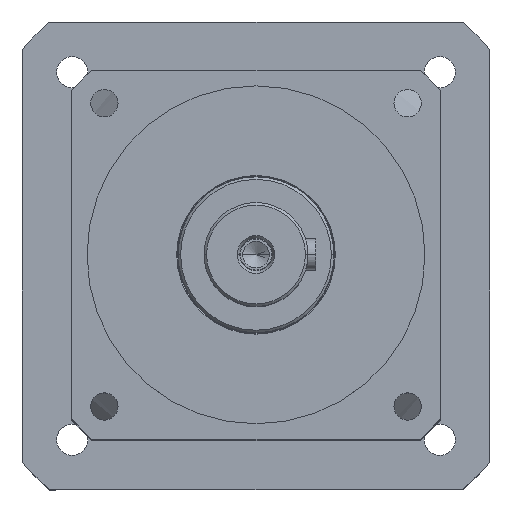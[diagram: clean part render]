
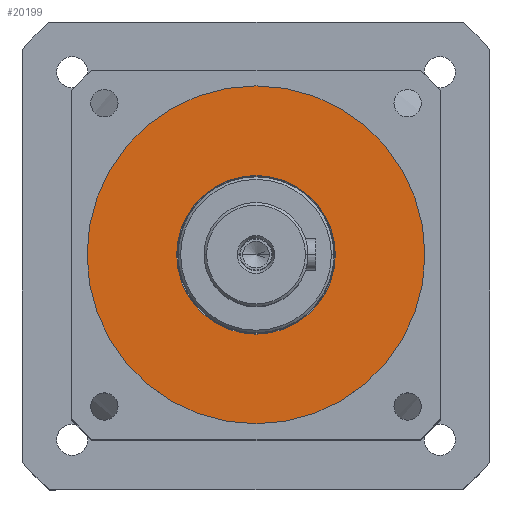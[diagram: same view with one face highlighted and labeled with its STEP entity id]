
A CAD part, top view. The second image highlights one B-rep face of the part: STEP entity #20199.
In plain terms, the highlighted planar face has unit normal (0, 0, 1).
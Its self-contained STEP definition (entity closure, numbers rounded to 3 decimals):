
#4056 = EDGE_CURVE ( 'NONE', #4057, #4058, #22545, .T. ) ;
#4057 = VERTEX_POINT ( 'NONE', #22541 ) ;
#4058 = VERTEX_POINT ( 'NONE', #22540 ) ;
#4288 = VERTEX_POINT ( 'NONE', #23177 ) ;
#4324 = EDGE_CURVE ( 'NONE', #4347, #4288, #23088, .T. ) ;
#4347 = VERTEX_POINT ( 'NONE', #23152 ) ;
#20193 = ORIENTED_EDGE ( 'NONE', *, *, #4056, .T. ) ;
#20194 = ORIENTED_EDGE ( 'NONE', *, *, #20208, .T. ) ;
#20199 = ADVANCED_FACE ( 'NONE', ( #31093, #31092 ), #31091, .T. ) ;
#20205 = EDGE_LOOP ( 'NONE', ( #20219, #20193 ) ) ;
#20208 = EDGE_CURVE ( 'NONE', #4288, #4347, #31642, .T. ) ;
#20213 = ORIENTED_EDGE ( 'NONE', *, *, #4324, .T. ) ;
#20219 = ORIENTED_EDGE ( 'NONE', *, *, #20220, .T. ) ;
#20220 = EDGE_CURVE ( 'NONE', #4058, #4057, #31542, .T. ) ;
#20231 = EDGE_LOOP ( 'NONE', ( #20213, #20194 ) ) ;
#22502 = CARTESIAN_POINT ( 'NONE',  ( 0., 0., -71. ) ) ;
#22540 = CARTESIAN_POINT ( 'NONE',  ( -30.5, 0., -71. ) ) ;
#22541 = CARTESIAN_POINT ( 'NONE',  ( 30.5, 0., -71. ) ) ;
#22542 = DIRECTION ( 'NONE',  ( -1., 0., 0. ) ) ;
#22543 = DIRECTION ( 'NONE',  ( 0., 0., -1. ) ) ;
#22544 = AXIS2_PLACEMENT_3D ( 'NONE', #22502, #22543, #22542 ) ;
#22545 = CIRCLE ( 'NONE', #22544, 30.5 ) ;
#23088 = CIRCLE ( 'NONE', #23106, 65. ) ;
#23103 = DIRECTION ( 'NONE',  ( 1., 0., 0. ) ) ;
#23104 = DIRECTION ( 'NONE',  ( 0., 0., 1. ) ) ;
#23105 = CARTESIAN_POINT ( 'NONE',  ( 0., 0., -71. ) ) ;
#23106 = AXIS2_PLACEMENT_3D ( 'NONE', #23105, #23104, #23103 ) ;
#23152 = CARTESIAN_POINT ( 'NONE',  ( 65., 0., -71. ) ) ;
#23177 = CARTESIAN_POINT ( 'NONE',  ( -65., 0., -71. ) ) ;
#31085 = DIRECTION ( 'NONE',  ( 1., 0., 0. ) ) ;
#31087 = DIRECTION ( 'NONE',  ( 0., 0., 1. ) ) ;
#31088 = AXIS2_PLACEMENT_3D ( 'NONE', #31090, #31087, #31085 ) ;
#31090 = CARTESIAN_POINT ( 'NONE',  ( 0., 0., -71. ) ) ;
#31091 = PLANE ( 'NONE',  #31088 ) ;
#31092 = FACE_OUTER_BOUND ( 'NONE', #20231, .T. ) ;
#31093 = FACE_BOUND ( 'NONE', #20205, .T. ) ;
#31348 = DIRECTION ( 'NONE',  ( -1., 0., 0. ) ) ;
#31488 = DIRECTION ( 'NONE',  ( 1., 0., 0. ) ) ;
#31542 = CIRCLE ( 'NONE', #31552, 30.5 ) ;
#31549 = DIRECTION ( 'NONE',  ( 0., 0., -1. ) ) ;
#31551 = CARTESIAN_POINT ( 'NONE',  ( 0., 0., -71. ) ) ;
#31552 = AXIS2_PLACEMENT_3D ( 'NONE', #31551, #31549, #31348 ) ;
#31557 = DIRECTION ( 'NONE',  ( 0., 0., 1. ) ) ;
#31559 = CARTESIAN_POINT ( 'NONE',  ( 0., 0., -71. ) ) ;
#31593 = AXIS2_PLACEMENT_3D ( 'NONE', #31559, #31557, #31488 ) ;
#31642 = CIRCLE ( 'NONE', #31593, 65. ) ;
